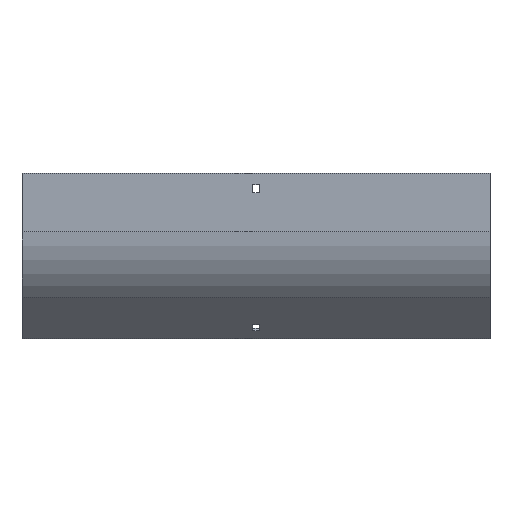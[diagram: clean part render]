
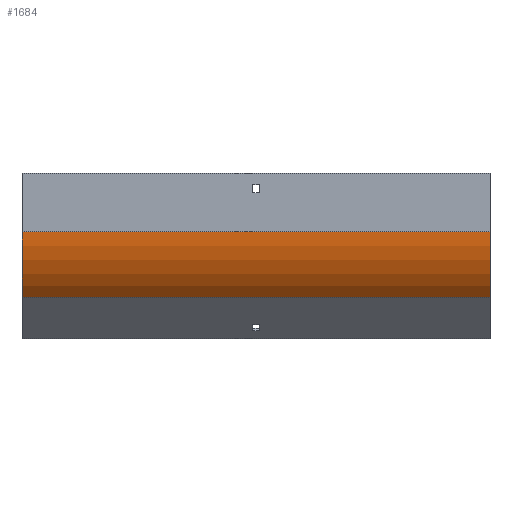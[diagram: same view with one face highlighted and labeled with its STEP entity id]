
A CAD part, front view. The second image highlights one B-rep face of the part: STEP entity #1684.
In plain terms, the highlighted cylindrical face has radius 100 mm (diameter 200 mm), a partial arc.
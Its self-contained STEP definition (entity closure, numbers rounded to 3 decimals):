
#19 = CARTESIAN_POINT ( 'NONE',  ( -252., 21., -62.723 ) ) ;
#51 = EDGE_CURVE ( 'NONE', #1262, #1282, #1922, .T. ) ;
#105 = CIRCLE ( 'NONE', #1454, 100. ) ;
#134 = DIRECTION ( 'NONE',  ( 1., 0., 0. ) ) ;
#285 = AXIS2_PLACEMENT_3D ( 'NONE', #19, #880, #1666 ) ;
#306 = LINE ( 'NONE', #780, #860 ) ;
#334 = CARTESIAN_POINT ( 'NONE',  ( 252., 21., -62.723 ) ) ;
#397 = DIRECTION ( 'NONE',  ( 0., 0., 1. ) ) ;
#412 = ORIENTED_EDGE ( 'NONE', *, *, #51, .F. ) ;
#429 = EDGE_LOOP ( 'NONE', ( #1595, #412, #1938, #1068 ) ) ;
#468 = CARTESIAN_POINT ( 'NONE',  ( -252., -49.711, -133.434 ) ) ;
#474 = FACE_OUTER_BOUND ( 'NONE', #429, .T. ) ;
#498 = CIRCLE ( 'NONE', #285, 100. ) ;
#771 = CARTESIAN_POINT ( 'NONE',  ( -252., -79., -62.723 ) ) ;
#780 = CARTESIAN_POINT ( 'NONE',  ( 252., -79., -62.723 ) ) ;
#827 = EDGE_CURVE ( 'NONE', #1596, #1282, #498, .T. ) ;
#860 = VECTOR ( 'NONE', #1207, 1000. ) ;
#880 = DIRECTION ( 'NONE',  ( 1., 0., 0. ) ) ;
#1068 = ORIENTED_EDGE ( 'NONE', *, *, #1607, .T. ) ;
#1077 = CYLINDRICAL_SURFACE ( 'NONE', #1555, 100. ) ;
#1172 = CARTESIAN_POINT ( 'NONE',  ( 252., -79., -62.723 ) ) ;
#1174 = CARTESIAN_POINT ( 'NONE',  ( 252., -49.711, -133.434 ) ) ;
#1207 = DIRECTION ( 'NONE',  ( -1., 0., 0. ) ) ;
#1229 = DIRECTION ( 'NONE',  ( 0., 0., 1. ) ) ;
#1262 = VERTEX_POINT ( 'NONE', #1818 ) ;
#1280 = VERTEX_POINT ( 'NONE', #1172 ) ;
#1282 = VERTEX_POINT ( 'NONE', #468 ) ;
#1367 = DIRECTION ( 'NONE',  ( -1., 0., 0. ) ) ;
#1374 = DIRECTION ( 'NONE',  ( -1., 0., 0. ) ) ;
#1454 = AXIS2_PLACEMENT_3D ( 'NONE', #1464, #134, #397 ) ;
#1464 = CARTESIAN_POINT ( 'NONE',  ( 252., 21., -62.723 ) ) ;
#1491 = EDGE_CURVE ( 'NONE', #1280, #1262, #105, .T. ) ;
#1539 = VECTOR ( 'NONE', #1367, 1000. ) ;
#1555 = AXIS2_PLACEMENT_3D ( 'NONE', #334, #1374, #1229 ) ;
#1595 = ORIENTED_EDGE ( 'NONE', *, *, #827, .T. ) ;
#1596 = VERTEX_POINT ( 'NONE', #771 ) ;
#1607 = EDGE_CURVE ( 'NONE', #1280, #1596, #306, .T. ) ;
#1666 = DIRECTION ( 'NONE',  ( 0., 0., 1. ) ) ;
#1684 = ADVANCED_FACE ( 'NONE', ( #474 ), #1077, .T. ) ;
#1818 = CARTESIAN_POINT ( 'NONE',  ( 252., -49.711, -133.434 ) ) ;
#1922 = LINE ( 'NONE', #1174, #1539 ) ;
#1938 = ORIENTED_EDGE ( 'NONE', *, *, #1491, .F. ) ;
